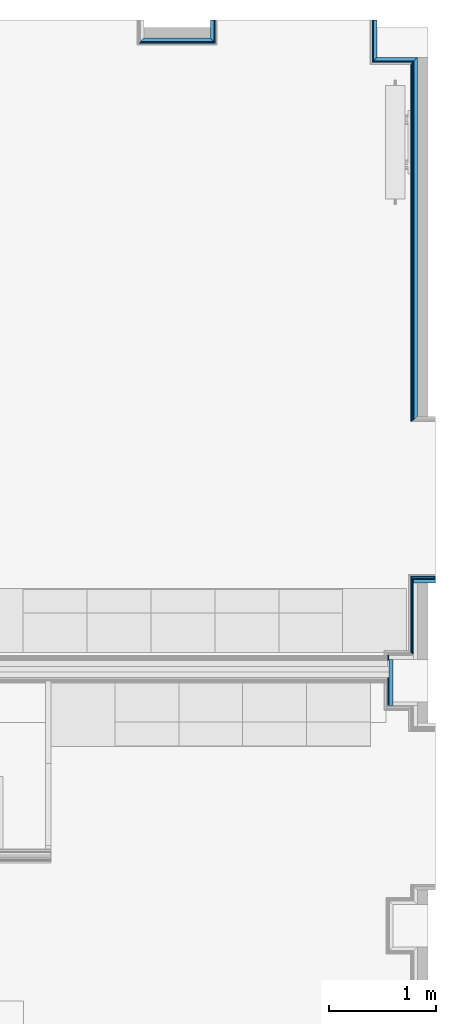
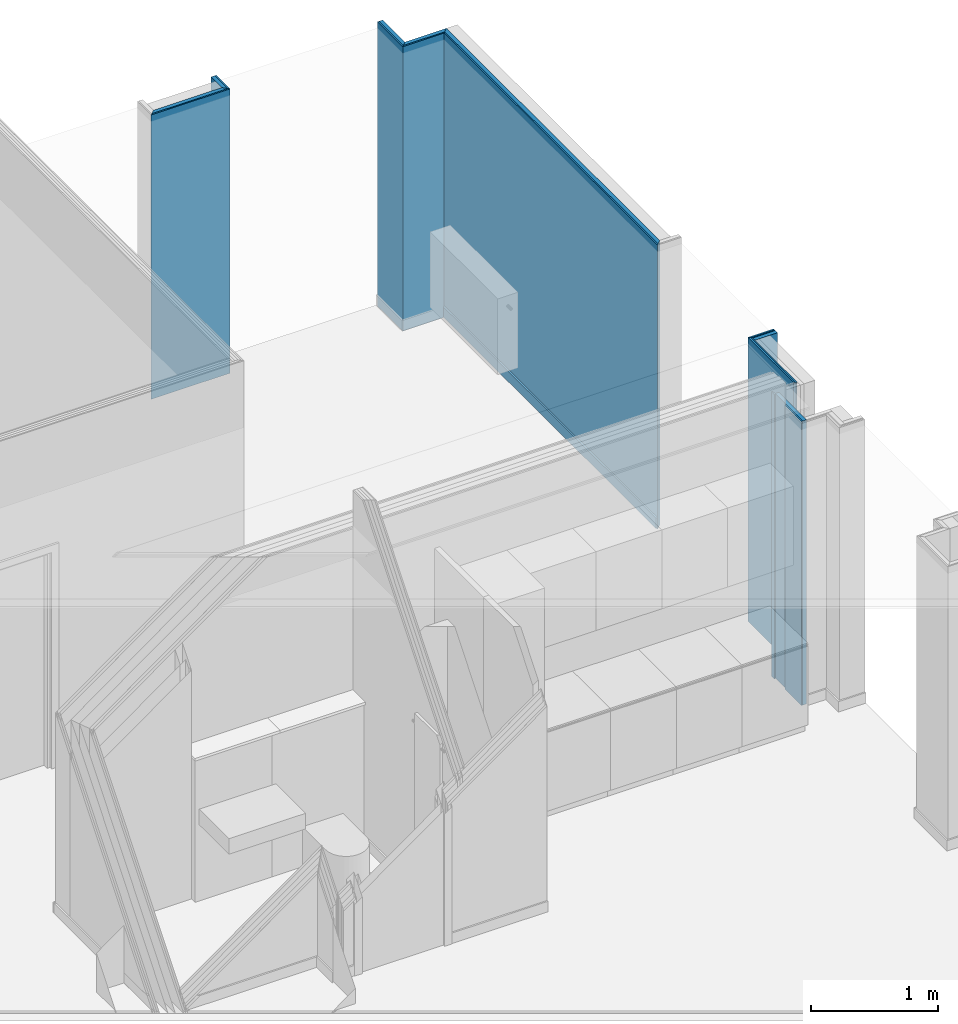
# One storey, part 27 of 65: 19 building element parts, 8 elements without a shape of their own.
"""IFC2X3 building model written with IfcOpenShell, lengths in metres."""

from ifc_helpers import new_model, entity, si_unit, converted_unit, derived_unit, money_unit, direction, frame, frame_2d, origin_with_axes, place, context, subcontext, project, spatial, polyline, rectangle, outline, extrude, material, type_object, element, aggregate, save


model = new_model("IFC2X3")

# Units and contexts
model_context = context("Model", 3, precision=1e-05, world=origin_with_axes(), true_north=direction((0.0, 1.0)))
body_context = subcontext(model_context, "Body", "Model", "MODEL_VIEW", scale=1.0)
ifc_project = project(units=[si_unit("LENGTHUNIT", "METRE"), si_unit("AREAUNIT", "SQUARE_METRE"), si_unit("VOLUMEUNIT", "CUBIC_METRE"), si_unit("ABSORBEDDOSEUNIT", "GRAY"), si_unit("AMOUNTOFSUBSTANCEUNIT", "MOLE"), si_unit("DOSEEQUIVALENTUNIT", "SIEVERT"), si_unit("ELECTRICCAPACITANCEUNIT", "FARAD"), si_unit("ELECTRICCHARGEUNIT", "COULOMB"), si_unit("ELECTRICCONDUCTANCEUNIT", "SIEMENS"), si_unit("ELECTRICCURRENTUNIT", "AMPERE"), si_unit("ELECTRICRESISTANCEUNIT", "OHM"), si_unit("ELECTRICVOLTAGEUNIT", "VOLT"), si_unit("ENERGYUNIT", "JOULE"), si_unit("FORCEUNIT", "NEWTON"), si_unit("FREQUENCYUNIT", "HERTZ"), si_unit("ILLUMINANCEUNIT", "LUX"), si_unit("INDUCTANCEUNIT", "HENRY"), si_unit("LUMINOUSFLUXUNIT", "LUMEN"), si_unit("LUMINOUSINTENSITYUNIT", "CANDELA"), si_unit("MAGNETICFLUXDENSITYUNIT", "TESLA"), si_unit("MAGNETICFLUXUNIT", "WEBER"), si_unit("MASSUNIT", "GRAM"), converted_unit("PLANEANGLEUNIT", "degree", entity("IfcReal", 0.0174532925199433), si_unit("PLANEANGLEUNIT", "RADIAN"), dimensions=[0, 0, 0, 0, 0, 0, 0]), si_unit("POWERUNIT", "WATT"), si_unit("PRESSUREUNIT", "PASCAL"), si_unit("RADIOACTIVITYUNIT", "BECQUEREL"), si_unit("SOLIDANGLEUNIT", "STERADIAN"), si_unit("THERMODYNAMICTEMPERATUREUNIT", "KELVIN"), si_unit("TIMEUNIT", "SECOND"), derived_unit("ACCELERATIONUNIT", [(si_unit("LENGTHUNIT", "METRE"), 1), (si_unit("TIMEUNIT", "SECOND"), -2)]), derived_unit("ANGULARVELOCITYUNIT", [(converted_unit("PLANEANGLEUNIT", "degree", entity("IfcReal", 0.0174532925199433), si_unit("PLANEANGLEUNIT", "RADIAN"), dimensions=[0, 0, 0, 0, 0, 0, 0]), 1), (si_unit("TIMEUNIT", "SECOND"), -1)]), derived_unit("CURVATUREUNIT", [(converted_unit("PLANEANGLEUNIT", "degree", entity("IfcReal", 0.0174532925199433), si_unit("PLANEANGLEUNIT", "RADIAN"), dimensions=[0, 0, 0, 0, 0, 0, 0]), 1), (si_unit("LENGTHUNIT", "METRE"), -1)]), derived_unit("DYNAMICVISCOSITYUNIT", [(si_unit("PRESSUREUNIT", "PASCAL"), 1), (si_unit("TIMEUNIT", "SECOND"), 1)]), derived_unit("HEATFLUXDENSITYUNIT", [(si_unit("POWERUNIT", "WATT"), 1), (si_unit("LENGTHUNIT", "METRE"), -2)]), derived_unit("HEATINGVALUEUNIT", [(si_unit("ENERGYUNIT", "JOULE"), 1), (si_unit("MASSUNIT", "GRAM"), -1)]), derived_unit("INTEGERCOUNTRATEUNIT", [(si_unit("TIMEUNIT", "SECOND"), -1)]), derived_unit("IONCONCENTRATIONUNIT", [(si_unit("MASSUNIT", "GRAM"), 1), (si_unit("VOLUMEUNIT", "CUBIC_METRE"), -1)]), derived_unit("ISOTHERMALMOISTURECAPACITYUNIT", [(si_unit("VOLUMEUNIT", "CUBIC_METRE"), 1), (si_unit("MASSUNIT", "GRAM"), -1)]), derived_unit("KINEMATICVISCOSITYUNIT", [(si_unit("AREAUNIT", "SQUARE_METRE"), 1), (si_unit("TIMEUNIT", "SECOND"), -1)]), derived_unit("LINEARFORCEUNIT", [(si_unit("FORCEUNIT", "NEWTON"), 1), (si_unit("LENGTHUNIT", "METRE"), -1)]), derived_unit("LINEARMOMENTUNIT", [(si_unit("FORCEUNIT", "NEWTON"), 1), (si_unit("LENGTHUNIT", "METRE"), -1)]), derived_unit("LINEARSTIFFNESSUNIT", [(si_unit("FORCEUNIT", "NEWTON"), 1), (si_unit("LENGTHUNIT", "METRE"), -1)]), derived_unit("LINEARVELOCITYUNIT", [(si_unit("LENGTHUNIT", "METRE"), 1), (si_unit("TIMEUNIT", "SECOND"), -1)]), derived_unit("LUMINOUSINTENSITYDISTRIBUTIONUNIT", [(si_unit("LUMINOUSINTENSITYUNIT", "CANDELA"), 1), (si_unit("LUMINOUSFLUXUNIT", "LUMEN"), -1)]), derived_unit("MASSDENSITYUNIT", [(si_unit("MASSUNIT", "GRAM"), 1), (si_unit("VOLUMEUNIT", "CUBIC_METRE"), -1)]), derived_unit("MASSFLOWRATEUNIT", [(si_unit("MASSUNIT", "GRAM"), 1), (si_unit("TIMEUNIT", "SECOND"), -1)]), derived_unit("MASSPERLENGTHUNIT", [(si_unit("MASSUNIT", "GRAM"), 1), (si_unit("LENGTHUNIT", "METRE"), -1)]), derived_unit("MODULUSOFELASTICITYUNIT", [(si_unit("FORCEUNIT", "NEWTON"), 1), (si_unit("AREAUNIT", "SQUARE_METRE"), -1)]), derived_unit("MODULUSOFLINEARSUBGRADEREACTIONUNIT", [(si_unit("FORCEUNIT", "NEWTON"), 1), (si_unit("LENGTHUNIT", "METRE"), -2)]), derived_unit("MODULUSOFROTATIONALSUBGRADEREACTIONUNIT", [(si_unit("FORCEUNIT", "NEWTON"), 1), (si_unit("LENGTHUNIT", "METRE"), 1)]), derived_unit("MODULUSOFSUBGRADEREACTIONUNIT", [(si_unit("FORCEUNIT", "NEWTON"), 1), (si_unit("VOLUMEUNIT", "CUBIC_METRE"), -1)]), derived_unit("MOISTUREDIFFUSIVITYUNIT", [(si_unit("VOLUMEUNIT", "CUBIC_METRE"), 1), (si_unit("TIMEUNIT", "SECOND"), -1)]), derived_unit("MOLECULARWEIGHTUNIT", [(si_unit("MASSUNIT", "GRAM"), 1), (si_unit("AMOUNTOFSUBSTANCEUNIT", "MOLE"), -1)]), derived_unit("PLANARFORCEUNIT", [(si_unit("FORCEUNIT", "NEWTON"), 1), (si_unit("LENGTHUNIT", "METRE"), -2)]), derived_unit("ROTATIONALFREQUENCYUNIT", [(si_unit("TIMEUNIT", "SECOND"), -1)]), derived_unit("ROTATIONALMASSUNIT", [(si_unit("MASSUNIT", "GRAM"), 1), (si_unit("LENGTHUNIT", "METRE"), 2)]), derived_unit("ROTATIONALSTIFFNESSUNIT", [(si_unit("FORCEUNIT", "NEWTON"), 1), (si_unit("LENGTHUNIT", "METRE"), 1), (converted_unit("PLANEANGLEUNIT", "degree", entity("IfcReal", 0.0174532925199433), si_unit("PLANEANGLEUNIT", "RADIAN"), dimensions=[0, 0, 0, 0, 0, 0, 0]), -1)]), derived_unit("SECTIONAREAINTEGRALUNIT", [(si_unit("LENGTHUNIT", "METRE"), 5)]), derived_unit("SECTIONMODULUSUNIT", [(si_unit("LENGTHUNIT", "METRE"), 3)]), derived_unit("SHEARMODULUSUNIT", [(si_unit("FORCEUNIT", "NEWTON"), 1), (si_unit("AREAUNIT", "SQUARE_METRE"), -1)]), derived_unit("SOUNDPOWERUNIT", [(si_unit("ENERGYUNIT", "JOULE"), 1), (si_unit("TIMEUNIT", "SECOND"), -1)]), derived_unit("SPECIFICHEATCAPACITYUNIT", [(si_unit("FORCEUNIT", "NEWTON"), 1), (si_unit("MASSUNIT", "GRAM"), -1), (si_unit("THERMODYNAMICTEMPERATUREUNIT", "KELVIN"), -1)]), derived_unit("TEMPERATUREGRADIENTUNIT", [(si_unit("THERMODYNAMICTEMPERATUREUNIT", "KELVIN"), 1), (si_unit("LENGTHUNIT", "METRE"), -1)]), derived_unit("THERMALADMITTANCEUNIT", [(si_unit("POWERUNIT", "WATT"), 1), (si_unit("AREAUNIT", "SQUARE_METRE"), -1), (si_unit("THERMODYNAMICTEMPERATUREUNIT", "KELVIN"), -1)]), derived_unit("THERMALCONDUCTANCEUNIT", [(si_unit("POWERUNIT", "WATT"), 1), (si_unit("LENGTHUNIT", "METRE"), -1), (si_unit("THERMODYNAMICTEMPERATUREUNIT", "KELVIN"), -1)]), derived_unit("THERMALEXPANSIONCOEFFICIENTUNIT", [(si_unit("THERMODYNAMICTEMPERATUREUNIT", "KELVIN"), -1)]), derived_unit("THERMALRESISTANCEUNIT", [(si_unit("AREAUNIT", "SQUARE_METRE"), 1), (si_unit("POWERUNIT", "WATT"), -1)]), derived_unit("THERMALTRANSMITTANCEUNIT", [(si_unit("POWERUNIT", "WATT"), 1), (si_unit("AREAUNIT", "SQUARE_METRE"), -1), (si_unit("THERMODYNAMICTEMPERATUREUNIT", "KELVIN"), -1)]), derived_unit("TORQUEUNIT", [(si_unit("FORCEUNIT", "NEWTON"), 1), (si_unit("LENGTHUNIT", "METRE"), 1)]), derived_unit("VAPORPERMEABILITYUNIT", [(si_unit("MASSUNIT", "GRAM"), 1), (si_unit("TIMEUNIT", "SECOND"), -1)]), derived_unit("VOLUMETRICFLOWRATEUNIT", [(si_unit("VOLUMEUNIT", "CUBIC_METRE"), 1), (si_unit("TIMEUNIT", "SECOND"), -1)]), derived_unit("WARPINGCONSTANTUNIT", [(si_unit("LENGTHUNIT", "METRE"), 6)]), derived_unit("WARPINGMOMENTUNIT", [(si_unit("FORCEUNIT", "NEWTON"), 1), (si_unit("LENGTHUNIT", "METRE"), 2)]), money_unit("GBP")], contexts=[model_context])

# Site, building, storey
site_placement = place(None, origin_with_axes())
site = spatial("IfcSite", under=ifc_project, at=site_placement, Name="Site", CompositionType="ELEMENT")
building_placement = place(site_placement, origin_with_axes())
building = spatial("IfcBuilding", under=site, at=building_placement, Name="Building01", CompositionType="ELEMENT")
storey_placement = place(building_placement, frame((0.0, 0.0, 8.64), z_axis=(0.0, 0.0, 1.0), x_axis=(1.0, 0.0, 0.0)))
storey = spatial("IfcBuildingStorey", under=building, at=storey_placement, Name="2F", CompositionType="ELEMENT", Elevation=8.64)

# Wall, building element parts
wall_type_1 = type_object("IfcWallType", Name="SHE_A-Walls_Type06d_ExternalWallInsulation_48mm", PredefinedType="NOTDEFINED")
wall_1_placement = place(storey_placement, frame((24.767, 14.8, 0.0), z_axis=(0.0, 0.0, 1.0), x_axis=(0.0, -1.0, 0.0)))
wall_1 = element("IfcWall", 1, at=wall_1_placement, inside=storey, type_object=wall_type_1, Name="6D", ObjectType="SHE_A-Walls_Type06d_ExternalWallInsulation_48mm")
ifc_material_1 = material(Name="A_BSUK_Insulation")
placement_1 = place(wall_1_placement, origin_with_axes())
building_element_part_1 = element("IfcBuildingElementPart", 2, at=placement_1, material=ifc_material_1, Name="1", context=body_context, shape_type="SweptSolid", body=[
    extrude(outline(polyline([(0.206, 0.036), (0.0, 0.036), (0.0, 0.0), (0.17, 0.0), (0.206, 0.036)])), origin_with_axes(), (0.0, 0.0, 1.0), 2.74),
])
ifc_material_2 = material(Name="A_BSUK_WallInternal_Finishes_Plasterboard")
building_element_part_2 = element("IfcBuildingElementPart", 3, at=placement_1, material=ifc_material_2, Name="2", context=body_context, shape_type="SweptSolid", body=[
    extrude(outline(polyline([(0.218, 0.048), (0.0, 0.048), (0.0, 0.035), (0.205, 0.035), (0.218, 0.048)])), origin_with_axes(), (0.0, 0.0, 1.0), 2.74),
])
aggregate(wall_1, [building_element_part_1, building_element_part_2])

wall_2_placement = place(storey_placement, frame((24.767, 14.63, 0.0), z_axis=(0.0, 0.0, 1.0), x_axis=(-1.0, 0.0, 0.0)))
wall_2 = element("IfcWall", 4, at=wall_2_placement, inside=storey, type_object=wall_type_1, Name="6D", ObjectType="SHE_A-Walls_Type06d_ExternalWallInsulation_48mm")
placement_2 = place(wall_2_placement, origin_with_axes())
building_element_part_3 = element("IfcBuildingElementPart", 5, at=placement_2, material=ifc_material_1, Name="1", context=body_context, shape_type="SweptSolid", body=[
    extrude(outline(polyline([(0.66, 0.036), (-0.036, 0.036), (0.0, 0.0), (0.624, 0.0), (0.66, 0.036)])), origin_with_axes(), (0.0, 0.0, 1.0), 2.74),
])
building_element_part_4 = element("IfcBuildingElementPart", 6, at=placement_2, material=ifc_material_2, Name="2", context=body_context, shape_type="SweptSolid", body=[
    extrude(outline(polyline([(0.672, 0.048), (-0.048, 0.048), (-0.035, 0.035), (0.659, 0.035), (0.672, 0.048)])), origin_with_axes(), (0.0, 0.0, 1.0), 2.74),
])
aggregate(wall_2, [building_element_part_3, building_element_part_4])

wall_3_placement = place(storey_placement, frame((26.71, 11.08018, 0.0), z_axis=(0.0, 0.0, 1.0), x_axis=(0.0, 1.0, 0.0)))
wall_3 = element("IfcWall", 7, at=wall_3_placement, inside=storey, type_object=wall_type_1, Name="6D", ObjectType="SHE_A-Walls_Type06d_ExternalWallInsulation_48mm")
placement_3 = place(wall_3_placement, origin_with_axes())
building_element_part_5 = element("IfcBuildingElementPart", 8, at=placement_3, material=ifc_material_1, Name="1", context=body_context, shape_type="SweptSolid", body=[
    extrude(outline(polyline([(3.33382, 0.036), (-0.036, 0.036), (0.0, 0.0), (3.36982, 0.0), (3.33382, 0.036)])), origin_with_axes(), (0.0, 0.0, 1.0), 2.74),
])
building_element_part_6 = element("IfcBuildingElementPart", 9, at=placement_3, material=ifc_material_2, Name="2", context=body_context, shape_type="SweptSolid", body=[
    extrude(outline(polyline([(3.32182, 0.048), (-0.048, 0.048), (-0.035, 0.035), (3.33482, 0.035), (3.32182, 0.048)])), origin_with_axes(), (0.0, 0.0, 1.0), 2.74),
])
ifc_material_3 = material(Name="A_BSUK_Walls_Timber")
building_element_part_7 = element("IfcBuildingElementPart", 10, at=placement_3, material=ifc_material_3, Name="3", context=body_context, shape_type="SweptSolid", body=[
    extrude(outline(polyline([(3.30682, 0.063), (-0.048, 0.063), (-0.048, 0.048), (3.32182, 0.048), (3.30682, 0.063)])), frame((0.0, 0.0, 0.015), z_axis=(0.0, 0.0, 1.0), x_axis=(1.0, 0.0, 0.0)), (0.0, 0.0, 1.0), 0.1),
])
aggregate(wall_3, [building_element_part_5, building_element_part_6, building_element_part_7])

wall_4_placement = place(storey_placement, frame((26.71, 14.45, 0.0), z_axis=(0.0, 0.0, 1.0), x_axis=(-1.0, 0.0, 0.0)))
wall_4 = element("IfcWall", 11, at=wall_4_placement, inside=storey, type_object=wall_type_1, Name="6D", ObjectType="SHE_A-Walls_Type06d_ExternalWallInsulation_48mm")
placement_4 = place(wall_4_placement, origin_with_axes())
building_element_part_8 = element("IfcBuildingElementPart", 12, at=placement_4, material=ifc_material_1, Name="1", context=body_context, shape_type="SweptSolid", body=[
    extrude(outline(polyline([(0.413, 0.036), (0.036, 0.036), (0.0, 0.0), (0.377, 0.0), (0.413, 0.036)])), origin_with_axes(), (0.0, 0.0, 1.0), 2.74),
])
building_element_part_9 = element("IfcBuildingElementPart", 13, at=placement_4, material=ifc_material_2, Name="2", context=body_context, shape_type="SweptSolid", body=[
    extrude(outline(polyline([(0.425, 0.048), (0.048, 0.048), (0.035, 0.035), (0.412, 0.035), (0.425, 0.048)])), origin_with_axes(), (0.0, 0.0, 1.0), 2.74),
])
aggregate(wall_4, [building_element_part_8, building_element_part_9])

wall_5_placement = place(storey_placement, frame((26.333, 14.45, 0.0), z_axis=(0.0, 0.0, 1.0), x_axis=(0.0, 1.0, 0.0)))
wall_5 = element("IfcWall", 14, at=wall_5_placement, inside=storey, type_object=wall_type_1, Name="6D", ObjectType="SHE_A-Walls_Type06d_ExternalWallInsulation_48mm")
placement_5 = place(wall_5_placement, origin_with_axes())
building_element_part_10 = element("IfcBuildingElementPart", 15, at=placement_5, material=ifc_material_1, Name="1", context=body_context, shape_type="SweptSolid", body=[
    extrude(outline(polyline([(-0.036, 0.036), (0.0, 0.0), (0.35, 0.0), (0.35, 0.036), (-0.036, 0.036)])), origin_with_axes(), (0.0, 0.0, 1.0), 2.74),
])
building_element_part_11 = element("IfcBuildingElementPart", 16, at=placement_5, material=ifc_material_2, Name="2", context=body_context, shape_type="SweptSolid", body=[
    extrude(outline(polyline([(-0.048, 0.048), (-0.035, 0.035), (0.35, 0.035), (0.35, 0.048), (-0.048, 0.048)])), origin_with_axes(), (0.0, 0.0, 1.0), 2.74),
])
aggregate(wall_5, [building_element_part_10, building_element_part_11])

wall_type_2 = type_object("IfcWallType", Name="SHE_A-Walls_Type06f_ExternalWallInsulation_48+15mm", PredefinedType="NOTDEFINED")
wall_6_placement = place(storey_placement, frame((26.71, 9.51418, 0.0), z_axis=(0.0, 0.0, 1.0), x_axis=(0.0, -1.0, 0.0)))
wall_6 = element("IfcWall", 17, at=wall_6_placement, inside=storey, type_object=wall_type_2, Name="6F", ObjectType="SHE_A-Walls_Type06f_ExternalWallInsulation_48+15mm")
placement_6 = place(wall_6_placement, origin_with_axes())
building_element_part_12 = element("IfcBuildingElementPart", 18, at=placement_6, material=ifc_material_2, Name="2", context=body_context, shape_type="SweptSolid", body=[
    extrude(outline(polyline([(0.66618, -0.048), (-0.048, -0.048), (-0.063, -0.063), (0.65118, -0.063), (0.66618, -0.048)])), origin_with_axes(), (0.0, 0.0, 1.0), 2.74),
])
building_element_part_13 = element("IfcBuildingElementPart", 19, at=placement_6, material=ifc_material_2, Name="3", context=body_context, shape_type="SweptSolid", body=[
    extrude(rectangle(XDim=0.71418, YDim=0.012, at=frame_2d((0.30909, -0.042), x_axis=(-1.0, 0.0))), origin_with_axes(), (0.0, 0.0, 1.0), 2.74),
])
aggregate(wall_6, [building_element_part_12, building_element_part_13])

wall_7_placement = place(storey_placement, frame((26.88, 9.51418, 0.0), z_axis=(0.0, 0.0, 1.0), x_axis=(-1.0, 0.0, 0.0)))
wall_7 = element("IfcWall", 20, at=wall_7_placement, inside=storey, type_object=wall_type_2, Name="6F", ObjectType="SHE_A-Walls_Type06f_ExternalWallInsulation_48+15mm")
placement_7 = place(wall_7_placement, origin_with_axes())
building_element_part_14 = element("IfcBuildingElementPart", 21, at=placement_7, material=ifc_material_2, Name="2", context=body_context, shape_type="SweptSolid", body=[
    extrude(outline(polyline([(0.218, -0.048), (0.0, -0.048), (0.0, -0.063), (0.233, -0.063), (0.218, -0.048)])), origin_with_axes(), (0.0, 0.0, 1.0), 2.74),
])
building_element_part_15 = element("IfcBuildingElementPart", 22, at=placement_7, material=ifc_material_2, Name="3", context=body_context, shape_type="SweptSolid", body=[
    extrude(rectangle(XDim=0.206, YDim=0.012, at=frame_2d((0.103, -0.042), x_axis=(-1.0, 0.0))), origin_with_axes(), (0.0, 0.0, 1.0), 2.74),
])
building_element_part_16 = element("IfcBuildingElementPart", 23, at=placement_7, material=ifc_material_1, Name="4", context=body_context, shape_type="SweptSolid", body=[
    extrude(rectangle(XDim=0.206, YDim=0.036, at=frame_2d((0.103, -0.018), x_axis=(-1.0, 0.0))), origin_with_axes(), (0.0, 0.0, 1.0), 2.74),
])
aggregate(wall_7, [building_element_part_14, building_element_part_15, building_element_part_16])

wall_8_placement = place(storey_placement, frame((26.48, 8.8, 0.0), z_axis=(0.0, 0.0, 1.0), x_axis=(0.0, -1.0, 0.0)))
wall_8 = element("IfcWall", 24, at=wall_8_placement, inside=storey, type_object=wall_type_2, Name="6F", ObjectType="SHE_A-Walls_Type06f_ExternalWallInsulation_48+15mm")
placement_8 = place(wall_8_placement, origin_with_axes())
building_element_part_17 = element("IfcBuildingElementPart", 25, at=placement_8, material=ifc_material_2, Name="5", context=body_context, shape_type="SweptSolid", body=[
    extrude(rectangle(XDim=0.012, YDim=0.046, at=frame_2d((-0.013, -0.042), x_axis=(0.0, -1.0))), origin_with_axes(), (0.0, 0.0, 1.0), 2.74),
])
building_element_part_18 = element("IfcBuildingElementPart", 26, at=placement_8, material=ifc_material_2, Name="6", context=body_context, shape_type="SweptSolid", body=[
    extrude(rectangle(XDim=0.261, YDim=0.012, at=frame_2d((0.3055, -0.042), x_axis=(-1.0, 0.0))), origin_with_axes(), (0.0, 0.0, 1.0), 2.74),
])
building_element_part_19 = element("IfcBuildingElementPart", 27, at=placement_8, material=ifc_material_1, Name="7", context=body_context, shape_type="SweptSolid", body=[
    extrude(rectangle(XDim=0.436, YDim=0.036, at=frame_2d((0.218, -0.018), x_axis=(-1.0, 0.0))), origin_with_axes(), (0.0, 0.0, 1.0), 2.74),
])
aggregate(wall_8, [building_element_part_17, building_element_part_18, building_element_part_19])

save(model, "model.ifc")
